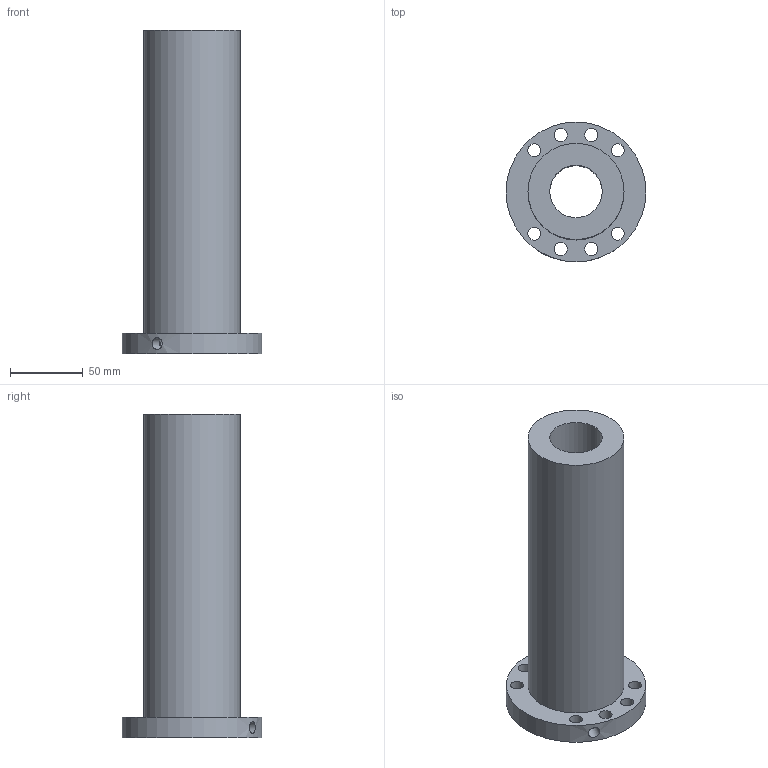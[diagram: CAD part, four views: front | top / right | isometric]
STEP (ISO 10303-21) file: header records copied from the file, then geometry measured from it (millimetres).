
FILE_DESCRIPTION(/* description */ (''),/* implementation_level */ '2;1');
FILE_NAME(/* name */ '36-16K5_635',/* time_stamp */ '2007-10-15T12:53:59+08:00',/* author */ (''),/* organization */ (''),/* preprocessor_version */ 'ST-DEVELOPER v11',/* originating_system */ 'UGS - NX 5.0',/* authorisation */ '');
FILE_SCHEMA (('CONFIG_CONTROL_DESIGN'));
Length unit declared in the file: millimetre
Products named in the file (1): 36-16K5_635
Bounding box: 96 x 96 x 222 mm (x, y, z)
Volume: 578782.6 mm3; surface area: 87619.2 mm2
Topology: 1 solids, 1 shells, 17 faces, 40 edges, 27 vertices
Faces by surface type: cylinder 13, plane 4
Full cylindrical faces by diameter (mm): 6 x1, 8 x1, 9 x8, 36 x1, 66 x1, 96 x1
Entity records: 668 total; most frequent: CARTESIAN_POINT 184, DIRECTION 84, FACE_BOUND 52, EDGE_LOOP 52, ORIENTED_EDGE 52, AXIS2_PLACEMENT_3D 42, VERTEX_POINT 26, EDGE_CURVE 26
